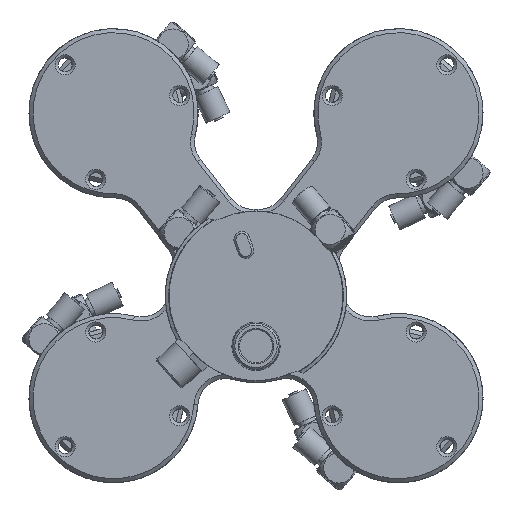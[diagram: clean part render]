
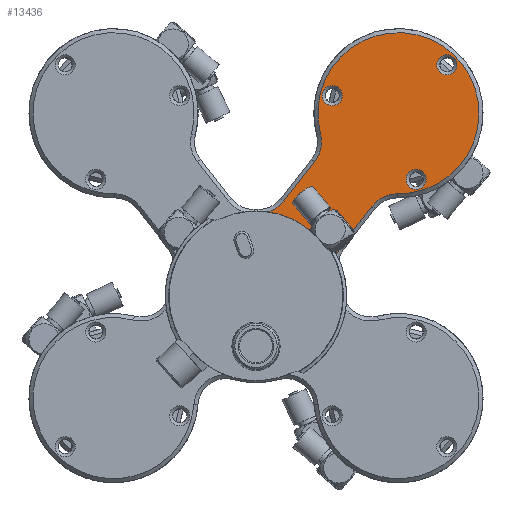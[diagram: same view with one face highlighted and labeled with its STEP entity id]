
A CAD part, top view. The second image highlights one B-rep face of the part: STEP entity #13436.
In plain terms, the highlighted planar face has unit normal (0, 0, 1).
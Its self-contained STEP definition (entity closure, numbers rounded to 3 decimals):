
#73=ELLIPSE('',#14808,16.25,3.25);
#485=LINE('',#21997,#1083);
#491=LINE('',#22021,#1089);
#537=LINE('',#22199,#1135);
#1083=VECTOR('',#17491,12.384);
#1089=VECTOR('',#17517,12.384);
#1135=VECTOR('',#17755,3.753);
#2170=FACE_BOUND('',#3827,.T.);
#2171=FACE_BOUND('',#3828,.T.);
#2172=FACE_BOUND('',#3829,.T.);
#2173=FACE_BOUND('',#3830,.T.);
#2770=FACE_OUTER_BOUND('',#3826,.T.);
#3826=EDGE_LOOP('',(#9970,#9971,#9972,#9973,#9974,#9975,#9976,#9977));
#3827=EDGE_LOOP('',(#9978,#9979));
#3828=EDGE_LOOP('',(#9980));
#3829=EDGE_LOOP('',(#9981));
#3830=EDGE_LOOP('',(#9982));
#4647=CIRCLE('',#14131,21.);
#4975=CIRCLE('',#14700,8.);
#4978=CIRCLE('',#14705,8.);
#4980=CIRCLE('',#14708,20.);
#4982=CIRCLE('',#14711,8.);
#4985=CIRCLE('',#14716,8.);
#5012=CIRCLE('',#14788,2.5);
#5013=CIRCLE('',#14790,2.5);
#5017=CIRCLE('',#14798,2.5);
#5651=VERTEX_POINT('',#20646);
#5652=VERTEX_POINT('',#20648);
#6050=VERTEX_POINT('',#21990);
#6051=VERTEX_POINT('',#21995);
#6053=VERTEX_POINT('',#22001);
#6055=VERTEX_POINT('',#22007);
#6057=VERTEX_POINT('',#22013);
#6059=VERTEX_POINT('',#22019);
#6087=VERTEX_POINT('',#22169);
#6088=VERTEX_POINT('',#22172);
#6092=VERTEX_POINT('',#22184);
#6094=VERTEX_POINT('',#22196);
#6095=VERTEX_POINT('',#22197);
#6932=EDGE_CURVE('',#5652,#5651,#4647,.T.);
#7465=EDGE_CURVE('',#6050,#5651,#4975,.T.);
#7468=EDGE_CURVE('',#6051,#6050,#485,.T.);
#7471=EDGE_CURVE('',#6053,#6051,#4978,.T.);
#7474=EDGE_CURVE('',#6055,#6053,#4980,.T.);
#7477=EDGE_CURVE('',#6057,#6055,#4982,.T.);
#7480=EDGE_CURVE('',#6059,#6057,#491,.T.);
#7484=EDGE_CURVE('',#5652,#6059,#4985,.T.);
#7555=EDGE_CURVE('',#6087,#6087,#5012,.T.);
#7556=EDGE_CURVE('',#6088,#6088,#5013,.T.);
#7560=EDGE_CURVE('',#6092,#6092,#5017,.T.);
#7562=EDGE_CURVE('',#6094,#6095,#73,.T.);
#7563=EDGE_CURVE('',#6095,#6094,#537,.T.);
#9970=ORIENTED_EDGE('',*,*,#6932,.T.);
#9971=ORIENTED_EDGE('',*,*,#7465,.F.);
#9972=ORIENTED_EDGE('',*,*,#7468,.F.);
#9973=ORIENTED_EDGE('',*,*,#7471,.F.);
#9974=ORIENTED_EDGE('',*,*,#7474,.F.);
#9975=ORIENTED_EDGE('',*,*,#7477,.F.);
#9976=ORIENTED_EDGE('',*,*,#7480,.F.);
#9977=ORIENTED_EDGE('',*,*,#7484,.F.);
#9978=ORIENTED_EDGE('',*,*,#7562,.T.);
#9979=ORIENTED_EDGE('',*,*,#7563,.T.);
#9980=ORIENTED_EDGE('',*,*,#7555,.T.);
#9981=ORIENTED_EDGE('',*,*,#7556,.T.);
#9982=ORIENTED_EDGE('',*,*,#7560,.T.);
#12209=PLANE('',#14807);
#13436=ADVANCED_FACE('',(#2770,#2170,#2171,#2172,#2173),#12209,.T.);
#14131=AXIS2_PLACEMENT_3D('',#20649,#16162,#16163);
#14700=AXIS2_PLACEMENT_3D('',#21992,#17484,#17485);
#14705=AXIS2_PLACEMENT_3D('',#22003,#17497,#17498);
#14708=AXIS2_PLACEMENT_3D('',#22009,#17504,#17505);
#14711=AXIS2_PLACEMENT_3D('',#22015,#17511,#17512);
#14716=AXIS2_PLACEMENT_3D('',#22028,#17525,#17526);
#14788=AXIS2_PLACEMENT_3D('',#22170,#17713,#17714);
#14790=AXIS2_PLACEMENT_3D('',#22173,#17717,#17718);
#14798=AXIS2_PLACEMENT_3D('',#22185,#17733,#17734);
#14807=AXIS2_PLACEMENT_3D('',#22195,#17751,#17752);
#14808=AXIS2_PLACEMENT_3D('',#22198,#17753,#17754);
#16162=DIRECTION('center_axis',(0.,0.,
-1.));
#16163=DIRECTION('ref_axis',(0.966,-0.259,0.));
#17484=DIRECTION('center_axis',(0.,0.,
1.));
#17485=DIRECTION('ref_axis',(-0.981,0.195,0.));
#17491=DIRECTION('',(-0.615,-0.789,0.));
#17497=DIRECTION('center_axis',(0.,0.,
1.));
#17498=DIRECTION('ref_axis',(-0.435,0.901,0.));
#17504=DIRECTION('center_axis',(0.,0.,
-1.));
#17505=DIRECTION('ref_axis',(0.916,0.401,0.));
#17511=DIRECTION('center_axis',(0.,0.,
1.));
#17512=DIRECTION('ref_axis',(0.979,-0.202,0.));
#17517=DIRECTION('',(0.615,0.789,0.));
#17525=DIRECTION('center_axis',(0.,0.,
1.));
#17526=DIRECTION('ref_axis',(0.429,-0.904,0.));
#17713=DIRECTION('center_axis',(0.,0.,
-1.));
#17714=DIRECTION('ref_axis',(1.,0.,0.));
#17717=DIRECTION('center_axis',(0.,0.,
-1.));
#17718=DIRECTION('ref_axis',(1.,0.,0.));
#17733=DIRECTION('center_axis',(0.,0.,
-1.));
#17734=DIRECTION('ref_axis',(1.,0.,0.));
#17751=DIRECTION('center_axis',(0.,0.,
1.));
#17752=DIRECTION('ref_axis',(1.,0.,0.));
#17753=DIRECTION('center_axis',(0.,0.,
-1.));
#17754=DIRECTION('ref_axis',(-0.643,0.766,0.));
#17755=DIRECTION('',(0.766,0.643,0.));
#20646=CARTESIAN_POINT('',(19.475,7.856,-17.5));
#20648=CARTESIAN_POINT('',(2.865,20.804,-17.5));
#20649=CARTESIAN_POINT('Origin',(0.,0.,
-17.5));
#21990=CARTESIAN_POINT('',(21.161,12.508,-17.5));
#21992=CARTESIAN_POINT('Origin',(27.471,7.589,-17.5));
#21995=CARTESIAN_POINT('',(28.775,22.275,-17.5));
#21997=CARTESIAN_POINT('',(21.57,13.032,-17.5));
#22001=CARTESIAN_POINT('',(35.162,25.356,-17.5));
#22003=CARTESIAN_POINT('Origin',(35.085,17.357,-17.5));
#22007=CARTESIAN_POINT('',(16.008,40.287,-17.5));
#22009=CARTESIAN_POINT('Origin',(35.355,45.355,-17.5));
#22013=CARTESIAN_POINT('',(14.579,33.341,-17.5));
#22015=CARTESIAN_POINT('Origin',(8.269,38.26,-17.5));
#22019=CARTESIAN_POINT('',(6.965,23.574,-17.5));
#22021=CARTESIAN_POINT('',(1.223,16.208,-17.5));
#22028=CARTESIAN_POINT('Origin',(0.656,28.492,-17.5));
#22169=CARTESIAN_POINT('',(42.255,28.935,-17.5));
#22170=CARTESIAN_POINT('Origin',(39.755,28.935,-17.5));
#22172=CARTESIAN_POINT('',(21.435,49.755,-17.5));
#22173=CARTESIAN_POINT('Origin',(18.935,49.755,-17.5));
#22184=CARTESIAN_POINT('',(49.876,57.376,-17.5));
#22185=CARTESIAN_POINT('Origin',(47.376,57.376,-17.5));
#22195=CARTESIAN_POINT('Origin',(0.,10.192,
-17.5));
#22196=CARTESIAN_POINT('',(13.372,25.876,-17.5));
#22197=CARTESIAN_POINT('',(10.497,23.464,-17.5));
#22198=CARTESIAN_POINT('Origin',(3.406,34.834,-17.5));
#22199=CARTESIAN_POINT('',(5.73,19.464,-17.5));
